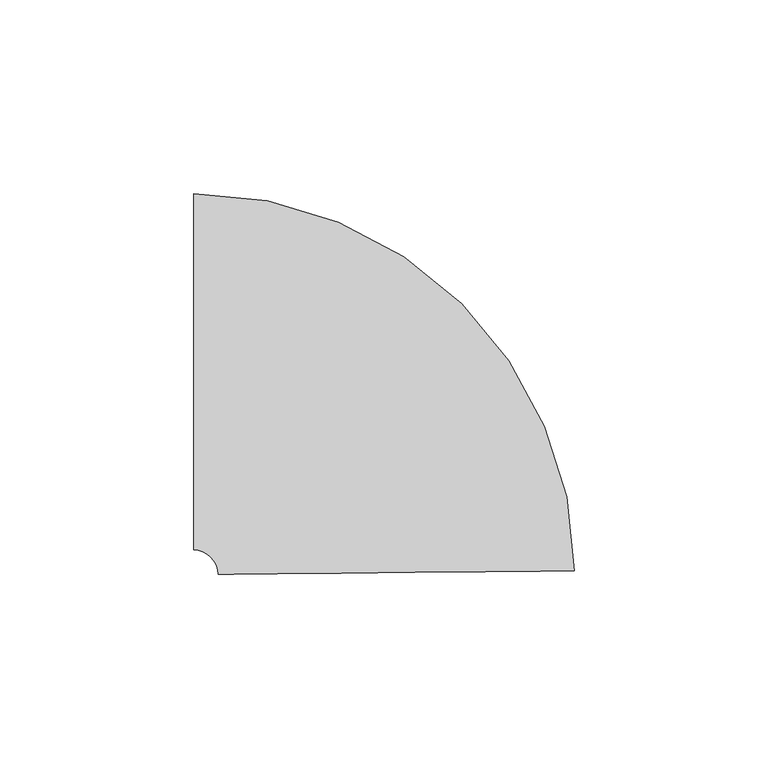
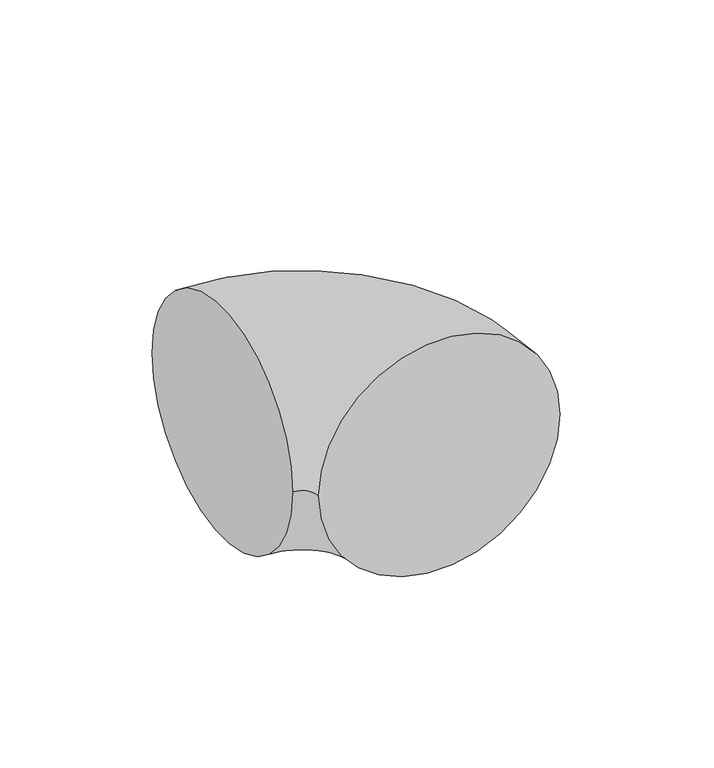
"""IFC4 building model written with IfcOpenShell, lengths in millimetres: pipe fitting geometry, M_Codo - Genérico : Estándar."""

import ifcopenshell
import ifcopenshell.guid

model = None  # the IFC model being written
_history = None  # IfcOwnerHistory: only IFC2X3 demands one
_inside = {}  # id of a spatial element -> (the spatial element, [elements in it])
_under = {}  # id of a project, library or spatial element -> (it, [spatial elements below it])
_declared = {}  # id of a project -> (the project, [libraries it declares])
_typed = {}  # id of a type object -> (the type object, [elements of that type])
_made_of = {}  # id of a material, layer set ... -> (it, [elements and type objects made of it])


def new_model(schema):
    """Start an empty IFC model of exactly this schema.

    Asked for "IFC4X3", IfcOpenShell would pick the latest addendum, in which some entities
    have other attributes; the version numbers below select the first issue.
    IFC2X3 requires an IfcOwnerHistory on every rooted entity: one is made here for all.
    """
    global model, _history
    if schema == "IFC4X3":
        model = ifcopenshell.file(schema_version=(4, 3, 0, 0))
    else:
        model = ifcopenshell.file(schema=schema)
    _inside.clear()
    _under.clear()
    _declared.clear()
    _typed.clear()
    _made_of.clear()
    _history = None
    if model.schema == "IFC2X3":
        org = make("IfcOrganization", Name="unknown")
        user = make(
            "IfcPersonAndOrganization",
            ThePerson=make("IfcPerson", FamilyName="unknown"),
            TheOrganization=org,
        )
        app = make(
            "IfcApplication",
            ApplicationDeveloper=org,
            Version="unknown",
            ApplicationFullName="unknown",
            ApplicationIdentifier="unknown",
        )
        _history = make(
            "IfcOwnerHistory",
            OwningUser=user,
            OwningApplication=app,
            ChangeAction="ADDED",
            CreationDate=0,
        )
    return model


def make(cls, **values):
    """One entity of the class cls with the attributes given. An attribute that is None is left unset."""
    return model.create_entity(
        cls, **{name: value for name, value in values.items() if value is not None}
    )


def rooted(cls, **values):
    """An entity with a GlobalId (a new one), such as an element, a storey or a relation."""
    return make(cls, GlobalId=ifcopenshell.guid.new(), OwnerHistory=_history, **values)


def si_unit(unit_type, name, prefix=None):
    """IfcSIUnit, for example si_unit("LENGTHUNIT", "METRE", prefix="MILLI")."""
    return make("IfcSIUnit", UnitType=unit_type, Prefix=prefix, Name=name)


def assignment(units):
    """IfcUnitAssignment: the units of a project."""
    return None if units is None else make("IfcUnitAssignment", Units=units)


def point(xyz):
    """IfcCartesianPoint."""
    return None if xyz is None else make("IfcCartesianPoint", Coordinates=xyz)


def direction(xyz):
    """IfcDirection."""
    return None if xyz is None else make("IfcDirection", DirectionRatios=xyz)


def frame(location, z_axis=None, x_axis=None):
    """IfcAxis2Placement3D, a coordinate frame: its origin and axes. An axis left out is left unset."""
    return make(
        "IfcAxis2Placement3D",
        Location=point(location),
        Axis=direction(z_axis),
        RefDirection=direction(x_axis),
    )


def origin():
    """The frame at (0, 0, 0) with its axes left unset."""
    return frame((0.0, 0.0, 0.0))


def place(relative_to, where):
    """IfcLocalPlacement: puts the frame where relative to a parent placement (None: the world)."""
    return make(
        "IfcLocalPlacement", PlacementRelTo=relative_to, RelativePlacement=where
    )


def context(
    kind, dimensions, precision=None, world=None, true_north=None, identifier=None
):
    """IfcGeometricRepresentationContext, for example the 3D "Model" context."""
    return make(
        "IfcGeometricRepresentationContext",
        ContextIdentifier=identifier,
        ContextType=kind,
        CoordinateSpaceDimension=dimensions,
        Precision=precision,
        WorldCoordinateSystem=world,
        TrueNorth=true_north,
    )


def project(units=None, contexts=None):
    """IfcProject with its units and contexts."""
    return rooted(
        "IfcProject",
        Name="project",
        RepresentationContexts=contexts,
        UnitsInContext=assignment(units),
    )


def spatial(cls, under=None, at=None, **own):
    """A site, building, storey or space (cls), placed at a placement, below another one or the project."""
    s = rooted(cls, ObjectPlacement=at, **own)
    if under is not None:
        _under.setdefault(under.id(), (under, []))[1].append(s)
    return s


def circle_curve(where, radius):
    """IfcCircle in the frame where."""
    return make("IfcCircle", Position=where, Radius=radius)


def ellipse_curve(where, semi_axis1, semi_axis2):
    """IfcEllipse in the frame where."""
    return make(
        "IfcEllipse", Position=where, SemiAxis1=semi_axis1, SemiAxis2=semi_axis2
    )


def trimmed(basis, trim1, trim2, sense, master):
    """IfcTrimmedCurve: the piece of a basis curve between two trims."""
    return make(
        "IfcTrimmedCurve",
        BasisCurve=basis,
        Trim1=trim1,
        Trim2=trim2,
        SenseAgreement=sense,
        MasterRepresentation=master,
    )


def shape(context_of_items, identifier, shape_type, items):
    """IfcShapeRepresentation: the items that make up one representation, for example the "Body"."""
    return make(
        "IfcShapeRepresentation",
        ContextOfItems=context_of_items,
        RepresentationIdentifier=identifier,
        RepresentationType=shape_type,
        Items=items,
    )


def source(mapping_origin, context_of_items, identifier, shape_type, items):
    """IfcRepresentationMap: a shape defined once, which mapped items show again and again."""
    return make(
        "IfcRepresentationMap",
        MappingOrigin=mapping_origin,
        MappedRepresentation=shape(context_of_items, identifier, shape_type, items),
    )


def transform(
    local_origin,
    x_axis=None,
    y_axis=None,
    z_axis=None,
    scale=None,
    scale2=None,
    scale3=None,
    uniform=True,
):
    """IfcCartesianTransformationOperator3D, or its non-uniform kind. x_axis, y_axis, z_axis: its Axis1, 2, 3."""
    if uniform:
        return make(
            "IfcCartesianTransformationOperator3D",
            Axis1=direction(x_axis),
            Axis2=direction(y_axis),
            LocalOrigin=point(local_origin),
            Scale=scale,
            Axis3=direction(z_axis),
        )
    return make(
        "IfcCartesianTransformationOperator3DnonUniform",
        Axis1=direction(x_axis),
        Axis2=direction(y_axis),
        LocalOrigin=point(local_origin),
        Scale=scale,
        Axis3=direction(z_axis),
        Scale2=scale2,
        Scale3=scale3,
    )


def mapped(mapping_source, mapping_target):
    """IfcMappedItem: shows the shape of a source again, moved by a transform."""
    return make(
        "IfcMappedItem", MappingSource=mapping_source, MappingTarget=mapping_target
    )


def made_of(thing, what):
    """Note that an element or type object is made of a material, layer set ...; save() writes the relation."""
    if what is not None:
        _made_of.setdefault(what.id(), (what, []))[1].append(thing)
    return thing


def element(
    cls,
    number,
    at=None,
    inside=None,
    cuts=None,
    type_object=None,
    material=None,
    context=None,
    identifier="Body",
    shape_type=None,
    held_by="IfcProductDefinitionShape",
    body=None,
    shapes=None,
    **own,
):
    """One element of the class cls, such as IfcWall. Its Tag is "e" and its number.

    at: its placement. inside: the storey or other place that contains it. cuts: it is an
    opening in that element (IfcRelVoidsElement). A single representation is given by context,
    identifier, shape_type and body (its items); several are given by shapes. held_by: the class
    of the entity that holds the representations. save() writes the other relations.
    """
    e = rooted(cls, Tag="e%d" % number, ObjectPlacement=at, **own)
    if body is not None:
        shapes = [shape(context, identifier, shape_type, body)]
    if shapes is not None:
        e.Representation = make(held_by, Representations=shapes)
    if inside is not None:
        _inside.setdefault(inside.id(), (inside, []))[1].append(e)
    if cuts is not None:
        rooted(
            "IfcRelVoidsElement", RelatingBuildingElement=cuts, RelatedOpeningElement=e
        )
    if type_object is not None:
        _typed.setdefault(type_object.id(), (type_object, []))[1].append(e)
    return made_of(e, material)


def aggregate(whole, parts):
    """IfcRelAggregates: a whole, such as a stair, and the parts it consists of."""
    return rooted("IfcRelAggregates", RelatingObject=whole, RelatedObjects=parts)


def save(model, path):
    """Write the relations noted so far, then the file.

    IfcRelAggregates (storeys below a building ...), IfcRelContainedInSpatialStructure (elements
    in a storey), IfcRelDefinesByType, IfcRelAssociatesMaterial and IfcRelDeclares: one each for
    every whole, place, type object, material and project.
    """
    for whole, parts in _under.values():
        aggregate(whole, parts)
    for where, things in _inside.values():
        rooted(
            "IfcRelContainedInSpatialStructure",
            RelatedElements=things,
            RelatingStructure=where,
        )
    for kind, things in _typed.values():
        rooted("IfcRelDefinesByType", RelatedObjects=things, RelatingType=kind)
    for what, things in _made_of.values():
        rooted("IfcRelAssociatesMaterial", RelatedObjects=things, RelatingMaterial=what)
    for by, libraries in _declared.values():
        rooted("IfcRelDeclares", RelatingContext=by, RelatedDefinitions=libraries)
    model.write(path)


def plane_surface(at):
    """IfcPlane: the flat surface through the origin of the frame at, square to its z axis."""
    return make("IfcPlane", Position=at)


def revolved_surface(curve, axis_point, axis_direction):
    """IfcSurfaceOfRevolution: the curve turned about the line through axis_point along axis_direction."""
    return make(
        "IfcSurfaceOfRevolution",
        SweptCurve=make("IfcArbitraryOpenProfileDef", ProfileType="CURVE", Curve=curve),
        AxisPosition=make("IfcAxis1Placement", Location=point(axis_point), Axis=direction(axis_direction)),
    )


def advanced_brep(points, edges, surfaces, faces):
    """IfcAdvancedBrep: a solid bounded by faces that lie on surfaces and meet in shared edges.

    An edge is (start, end): straight between two places in points (the first is 0);
    or (start, end, curve); or (start, end, curve, False) where it runs against its curve.
    A face is (place in surfaces, loops), or (place, loops, False) where it looks against
    its surface's normal. A loop lists edges by number (the first is 1), with a minus sign
    where the edge is run from its end to its start. The first loop is the outer one.
    """
    corners = [point(p) for p in points]
    vertices = [make("IfcVertexPoint", VertexGeometry=c) for c in corners]
    made = []
    for start, end, *more in edges:
        made.append(
            make(
                "IfcEdgeCurve",
                EdgeStart=vertices[start],
                EdgeEnd=vertices[end],
                EdgeGeometry=more[0] if more else make("IfcPolyline", Points=[corners[start], corners[end]]),
                SameSense=more[1] if len(more) > 1 else True,
            )
        )
    hull = []
    for where, loops, *sense in faces:
        bounds = []
        for j, loop in enumerate(loops):
            ring = [make("IfcOrientedEdge", EdgeElement=made[abs(k) - 1], Orientation=k > 0) for k in loop]
            bounds.append(
                make(
                    "IfcFaceOuterBound" if j == 0 else "IfcFaceBound",
                    Bound=make("IfcEdgeLoop", EdgeList=ring),
                    Orientation=True,
                )
            )
        hull.append(make("IfcAdvancedFace", Bounds=bounds, FaceSurface=surfaces[where], SameSense=sense[0] if sense else True))
    return make("IfcAdvancedBrep", Outer=make("IfcClosedShell", CfsFaces=hull))


def pipe_fitting_51958308(model_context):
    return source(origin(), model_context, "Body", "AdvancedBrep", [
        advanced_brep(
        [(-51.8662443, 46.0375, 0.0), (-51.8662443, -46.0375, 0.0), (46.5538348, -51.4032992, 0.0), (-45.5165618, -52.3240032, 0.0)],
        [
            (0, 1, circle_curve(frame((-51.8662443, 0.0, 0.0), z_axis=(-1.0, 0.0, 0.0), x_axis=(0.0, -1.0, 0.0)), 46.0375)),
            (1, 0, circle_curve(frame((-51.8662443, 0.0, 0.0), z_axis=(-1.0, 0.0, 0.0), x_axis=(0.0, -1.0, 0.0)), 46.0375)),
            (2, 3, circle_curve(frame((0.5186365, -51.8636512, 0.0), z_axis=(0.009999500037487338, -0.9999500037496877, 0.0), x_axis=(-0.9999500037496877, -0.009999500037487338, 0.0)), 46.0375)),
            (3, 2, circle_curve(frame((0.5186365, -51.8636512, 0.0), z_axis=(0.009999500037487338, -0.9999500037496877, 0.0), x_axis=(-0.9999500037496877, -0.009999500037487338, 0.0)), 46.0375)),
            (2, 0, circle_curve(frame((-51.8662443, -52.3875, 0.0), z_axis=(0.0, 0.0, 1.0), x_axis=(0.0, 1.0, 0.0)), 98.425)),
            (1, 3, circle_curve(frame((-51.8662443, -52.3875, 0.0), z_axis=(0.0, 0.0, -1.0), x_axis=(0.0, 1.0, 0.0)), 6.35)),
        ],
        [
            plane_surface(frame((-51.8662443, 0.0, 0.0), z_axis=(-1.0, 0.0, 0.0), x_axis=(0.0, 0.0, 1.0))),
            plane_surface(frame((0.5186365, -51.8636512, 0.0), z_axis=(0.00999950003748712, -0.9999500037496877, 0.0), x_axis=(0.0, 0.0, 1.0))),
            revolved_surface(trimmed(ellipse_curve(frame((-51.8662443, 0.0, 0.0), z_axis=(1.0, 0.0, 0.0), x_axis=(0.0, -1.0, 0.0)), 46.0375, 46.0375), [point((-51.8662443, 46.0375, 0.0))], [point((-51.8662443, -46.0375, 0.0))], True, "CARTESIAN"), (-51.8662443, -52.3875, 0.0), (0.0, 0.0, 1.0)),
            revolved_surface(trimmed(ellipse_curve(frame((-51.8662443, 0.0, 0.0), z_axis=(1.0, 0.0, 0.0), x_axis=(0.0, -1.0, 0.0)), 46.0375, 46.0375), [point((-51.8662443, -46.0375, 0.0))], [point((-51.8662443, 46.0375, 0.0))], True, "CARTESIAN"), (-51.8662443, -52.3875, 0.0), (0.0, 0.0, 1.0)),
        ],
        [
            (0, [[1, 2]]),
            (1, [[3, 4]]),
            (2, [[-3, 5, -2, 6]]),
            (3, [[-4, -6, -1, -5]]),
        ],
    ),
    ])


if __name__ == "__main__":
    model = new_model("IFC4")
    model_context = context("Model", 3, world=origin())
    ifc_project = project(units=[si_unit("LENGTHUNIT", "METRE", prefix="MILLI")], contexts=[model_context])
    site = spatial("IfcSite", under=ifc_project)
    building = spatial("IfcBuilding", under=site)
    placement = place(None, origin())
    pipe_fitting_shape = pipe_fitting_51958308(model_context)
    element("IfcPipeFitting", 1, ObjectType="M_Codo - Genérico : Estándar", at=placement, inside=building, context=model_context, shape_type="MappedRepresentation", body=[
        mapped(pipe_fitting_shape, transform((0.0, 0.0, 0.0), x_axis=(1.0, 0.0, 0.0), y_axis=(0.0, 1.0, 0.0), z_axis=(0.0, 0.0, 1.0))),
    ])
    save(model, "model.ifc")
